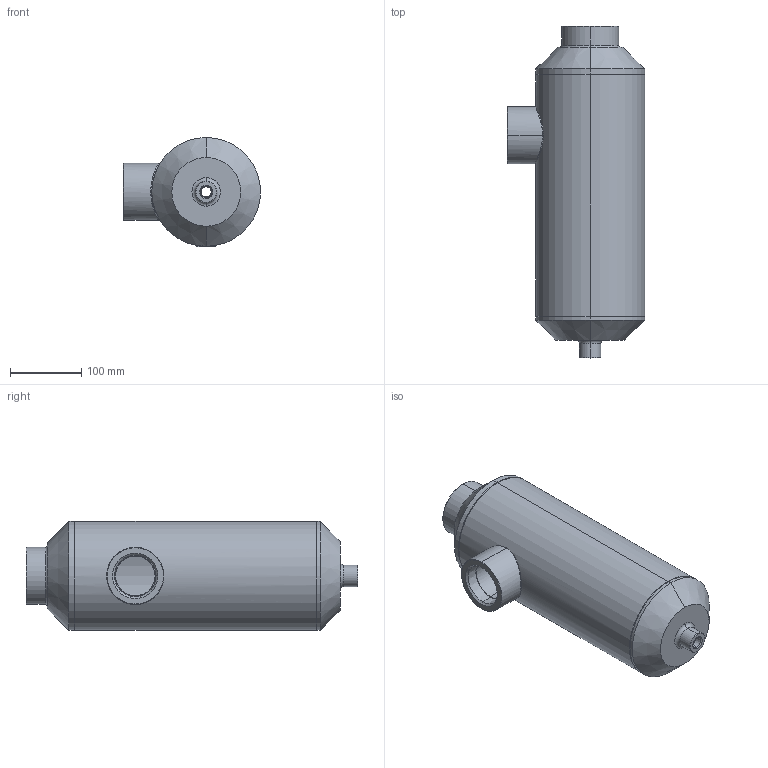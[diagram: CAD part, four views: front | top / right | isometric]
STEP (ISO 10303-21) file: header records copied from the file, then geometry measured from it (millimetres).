
FILE_DESCRIPTION (( 'STEP AP203' ), '1' );
FILE_NAME ('FAPP-T20-DUP01537_2022FEB16_0.STEP', '2022-02-16T15:50:02', ( '' ), ( '' ), 'SwSTEP 2.0', 'SolidWorks 2020', '' );
FILE_SCHEMA (( 'CONFIG_CONTROL_DESIGN' ));
Length unit declared in the file: millimetre
Products named in the file (1): FAPP-T20-DUP01537_2022FEB16_0
Bounding box: 192.2 x 465 x 152.7 mm (x, y, z)
Surface area: 253929 mm2 (no closed solid volume)
Topology: 0 solids, 5 shells, 69 faces, 160 edges, 104 vertices
Faces by surface type: cone 30, cylinder 18, plane 15, torus 4, bspline 2
Entity records: 2943 total; most frequent: CARTESIAN_POINT 1255, DIRECTION 373, ORIENTED_EDGE 287, EDGE_CURVE 160, AXIS2_PLACEMENT_3D 156, VERTEX_POINT 104, CIRCLE 88, EDGE_LOOP 82
